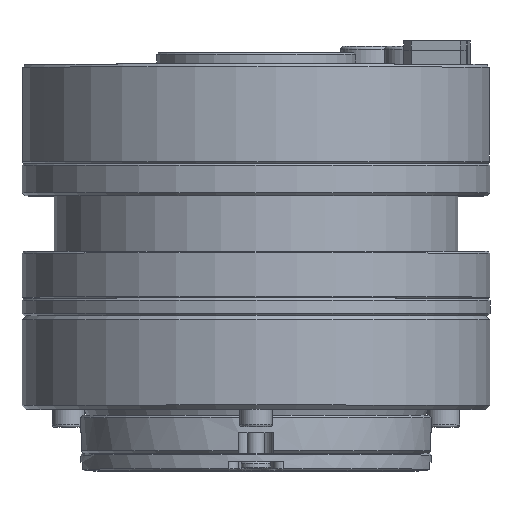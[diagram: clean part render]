
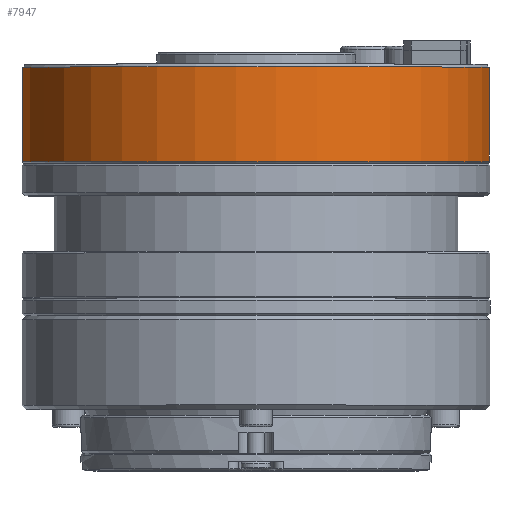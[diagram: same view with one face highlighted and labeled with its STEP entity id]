
A CAD part, top view. The second image highlights one B-rep face of the part: STEP entity #7947.
In plain terms, the highlighted cylindrical face has radius 40 mm (diameter 80 mm), a full revolution.
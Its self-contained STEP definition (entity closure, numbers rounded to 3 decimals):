
#700 = VERTEX_POINT ( 'NONE', #17006 ) ;
#1429 = EDGE_LOOP ( 'NONE', ( #11148 ) ) ;
#5314 = AXIS2_PLACEMENT_3D ( 'NONE', #31038, #6372, #20610 ) ;
#6372 = DIRECTION ( 'NONE',  ( 0., -1., 0. ) ) ;
#7789 = CYLINDRICAL_SURFACE ( 'NONE', #32821, 40. ) ;
#7947 = ADVANCED_FACE ( 'NONE', ( #24381, #21475 ), #7789, .T. ) ;
#9840 = CARTESIAN_POINT ( 'NONE',  ( 10.357, 23.3, -38.636 ) ) ;
#9938 = CIRCLE ( 'NONE', #5314, 40. ) ;
#11148 = ORIENTED_EDGE ( 'NONE', *, *, #25046, .T. ) ;
#12218 = CARTESIAN_POINT ( 'NONE',  ( 0., 23.3, 0. ) ) ;
#12740 = DIRECTION ( 'NONE',  ( 0., 1., 0. ) ) ;
#14396 = ORIENTED_EDGE ( 'NONE', *, *, #17993, .T. ) ;
#14647 = DIRECTION ( 'NONE',  ( 0.259, 0., -0.966 ) ) ;
#15147 = CIRCLE ( 'NONE', #19739, 40. ) ;
#15602 = DIRECTION ( 'NONE',  ( 0.259, 0., -0.966 ) ) ;
#16602 = CARTESIAN_POINT ( 'NONE',  ( 0., 40., 0. ) ) ;
#17006 = CARTESIAN_POINT ( 'NONE',  ( 10.357, 39.5, -38.636 ) ) ;
#17993 = EDGE_CURVE ( 'NONE', #28748, #28748, #15147, .T. ) ;
#19739 = AXIS2_PLACEMENT_3D ( 'NONE', #12218, #12740, #15602 ) ;
#19779 = EDGE_LOOP ( 'NONE', ( #14396 ) ) ;
#20610 = DIRECTION ( 'NONE',  ( 0.259, 0., -0.966 ) ) ;
#21475 = FACE_OUTER_BOUND ( 'NONE', #19779, .T. ) ;
#24381 = FACE_OUTER_BOUND ( 'NONE', #1429, .T. ) ;
#25046 = EDGE_CURVE ( 'NONE', #700, #700, #9938, .T. ) ;
#27598 = DIRECTION ( 'NONE',  ( 0., -1., 0. ) ) ;
#28748 = VERTEX_POINT ( 'NONE', #9840 ) ;
#31038 = CARTESIAN_POINT ( 'NONE',  ( 0., 39.5, 0. ) ) ;
#32821 = AXIS2_PLACEMENT_3D ( 'NONE', #16602, #27598, #14647 ) ;
